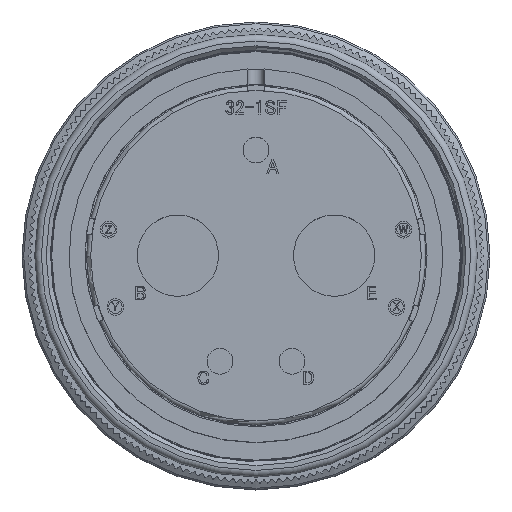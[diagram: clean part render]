
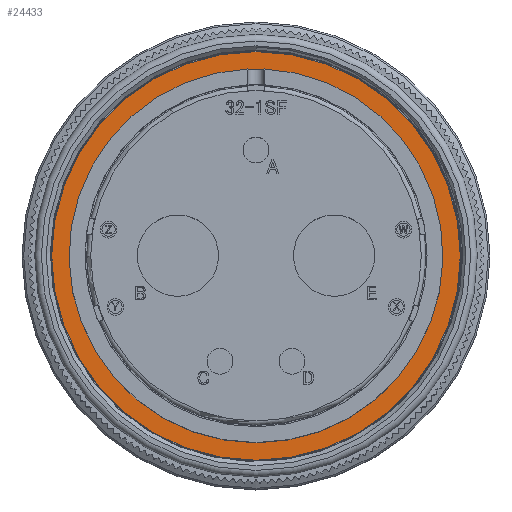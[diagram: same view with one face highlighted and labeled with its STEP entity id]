
A CAD part, top view. The second image highlights one B-rep face of the part: STEP entity #24433.
In plain terms, the highlighted planar face has unit normal (0, 0, 1).
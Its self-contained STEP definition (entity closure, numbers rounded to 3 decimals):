
#65 = EDGE_CURVE ( 'NONE', #84916, #33068, #33486, .T. ) ;
#825 = AXIS2_PLACEMENT_3D ( 'NONE', #82000, #26899, #97489 ) ;
#3450 = PLANE ( 'NONE',  #825 ) ;
#4393 = VERTEX_POINT ( 'NONE', #28131 ) ;
#8018 = CARTESIAN_POINT ( 'NONE',  ( -1., 22.453, -16.66 ) ) ;
#15681 = CIRCLE ( 'NONE', #62033, 24.575 ) ;
#16328 = EDGE_LOOP ( 'NONE', ( #29370 ) ) ;
#21526 = EDGE_CURVE ( 'NONE', #33068, #84916, #83701, .T. ) ;
#24433 = ADVANCED_FACE ( 'NONE', ( #31510, #101811 ), #3450, .F. ) ;
#26899 = DIRECTION ( 'NONE',  ( 0., 0., -1. ) ) ;
#28131 = CARTESIAN_POINT ( 'NONE',  ( 24.575, 0., -16.66 ) ) ;
#29370 = ORIENTED_EDGE ( 'NONE', *, *, #65315, .T. ) ;
#31510 = FACE_BOUND ( 'NONE', #32146, .T. ) ;
#32146 = EDGE_LOOP ( 'NONE', ( #83882, #99840 ) ) ;
#33068 = VERTEX_POINT ( 'NONE', #8018 ) ;
#33486 = CIRCLE ( 'NONE', #76587, 22.475 ) ;
#36949 = AXIS2_PLACEMENT_3D ( 'NONE', #63968, #54943, #63285 ) ;
#42260 = CARTESIAN_POINT ( 'NONE',  ( 0., 0., -16.66 ) ) ;
#49745 = CARTESIAN_POINT ( 'NONE',  ( 0., 0., -16.66 ) ) ;
#50853 = DIRECTION ( 'NONE',  ( 1., 0., 0. ) ) ;
#54943 = DIRECTION ( 'NONE',  ( 0., 0., 1. ) ) ;
#57708 = DIRECTION ( 'NONE',  ( 0., 0., 1. ) ) ;
#62033 = AXIS2_PLACEMENT_3D ( 'NONE', #42260, #98047, #50853 ) ;
#63285 = DIRECTION ( 'NONE',  ( 1., 0., 0. ) ) ;
#63968 = CARTESIAN_POINT ( 'NONE',  ( 0., 0., -16.66 ) ) ;
#65315 = EDGE_CURVE ( 'NONE', #4393, #4393, #15681, .T. ) ;
#65340 = DIRECTION ( 'NONE',  ( 1., 0., 0. ) ) ;
#75253 = CARTESIAN_POINT ( 'NONE',  ( 1., 22.453, -16.66 ) ) ;
#76587 = AXIS2_PLACEMENT_3D ( 'NONE', #49745, #57708, #65340 ) ;
#82000 = CARTESIAN_POINT ( 'NONE',  ( 0., 24.575, -16.66 ) ) ;
#83701 = CIRCLE ( 'NONE', #36949, 22.475 ) ;
#83882 = ORIENTED_EDGE ( 'NONE', *, *, #65, .F. ) ;
#84916 = VERTEX_POINT ( 'NONE', #75253 ) ;
#97489 = DIRECTION ( 'NONE',  ( -1., 0., 0. ) ) ;
#98047 = DIRECTION ( 'NONE',  ( 0., 0., 1. ) ) ;
#99840 = ORIENTED_EDGE ( 'NONE', *, *, #21526, .F. ) ;
#101811 = FACE_OUTER_BOUND ( 'NONE', #16328, .T. ) ;
